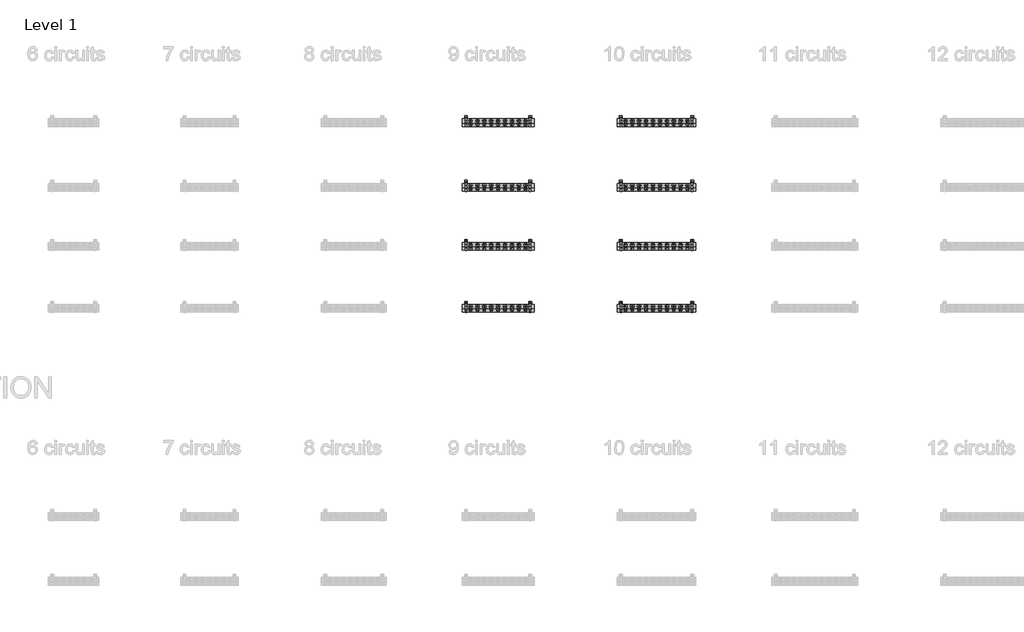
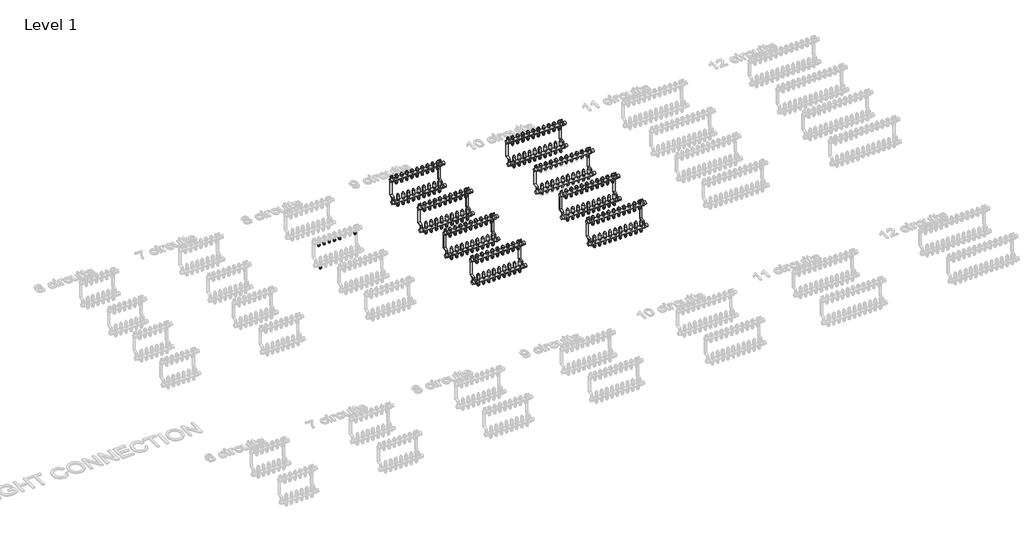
# One storey, part 10 of 23: 139 pipe fittings, 8 valves.
"""IFC4 building model written with IfcOpenShell, lengths in millimetres."""

from ifc_helpers import new_model, si_unit, origin, place, context, project, spatial, transform, mapped, element, save
from components import pipe_fitting_03c6499f, valve_f094e97b, valve_0359cbb0, valve_3285f891, valve_bdae45cc, valve_7e3f3941, valve_882e19a6

model = new_model("IFC4")

# Units and contexts
model_context = context("Model", 3, world=origin())
ifc_project = project(units=[si_unit("LENGTHUNIT", "METRE", prefix="MILLI")], contexts=[model_context])

# Site, building, storey
site = spatial("IfcSite", under=ifc_project)
building = spatial("IfcBuilding", under=site)
storey = spatial("IfcBuildingStorey", under=building, Name="Level 1", Elevation=0.0)

# Pipe fittings
placement = place(None, origin())
pipe_fitting_shape = pipe_fitting_03c6499f(model_context)
element("IfcPipeFitting", 1, ObjectType="Euroconus screwing for multilayer pipes - Manifold FT : Euroconus screwing for multilayer pipes - Manifold FT", at=placement, inside=storey, context=model_context, shape_type="MappedRepresentation", body=[
    mapped(pipe_fitting_shape, transform((7428.4082576, 1200.3040686, 272.88733), x_axis=(0.0, 0.0, -1.0), y_axis=(0.0, 1.0000000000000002, 0.0), z_axis=(1.0000000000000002, 0.0, 0.0))),
])
element("IfcPipeFitting", 2, ObjectType="Euroconus screwing for multilayer pipes - Manifold FT : Euroconus screwing for multilayer pipes - Manifold FT", at=placement, inside=storey, context=model_context, shape_type="MappedRepresentation", body=[
    mapped(pipe_fitting_shape, transform((7379.5511147, 1200.3040686, 272.88733), x_axis=(0.0, 0.0, -1.0), y_axis=(0.0, 1.0000000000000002, 0.0), z_axis=(1.0000000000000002, 0.0, 0.0))),
])
element("IfcPipeFitting", 3, ObjectType="Euroconus screwing for multilayer pipes - Manifold FT : Euroconus screwing for multilayer pipes - Manifold FT", at=placement, inside=storey, context=model_context, shape_type="MappedRepresentation", body=[
    mapped(pipe_fitting_shape, transform((7330.6939719, 1200.3040686, 272.88733), x_axis=(0.0, 0.0, -1.0), y_axis=(0.0, 1.0000000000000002, 0.0), z_axis=(1.0000000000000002, 0.0, 0.0))),
])
element("IfcPipeFitting", 4, ObjectType="Euroconus screwing for multilayer pipes - Manifold FT : Euroconus screwing for multilayer pipes - Manifold FT", at=placement, inside=storey, context=model_context, shape_type="MappedRepresentation", body=[
    mapped(pipe_fitting_shape, transform((7281.836829, 1200.3040686, 272.88733), x_axis=(0.0, 0.0, -1.0), y_axis=(0.0, 1.0000000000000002, 0.0), z_axis=(1.0000000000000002, 0.0, 0.0))),
])
element("IfcPipeFitting", 5, ObjectType="Euroconus screwing for multilayer pipes - Manifold FT : Euroconus screwing for multilayer pipes - Manifold FT", at=placement, inside=storey, context=model_context, shape_type="MappedRepresentation", body=[
    mapped(pipe_fitting_shape, transform((7574.9796862, 1200.3040686, 272.88733), x_axis=(0.0, 0.0, -1.0), y_axis=(0.0, 1.0000000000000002, 0.0), z_axis=(1.0000000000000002, 0.0, 0.0))),
])
element("IfcPipeFitting", 6, ObjectType="Euroconus screwing for multilayer pipes - Manifold FT : Euroconus screwing for multilayer pipes - Manifold FT", at=placement, inside=storey, context=model_context, shape_type="MappedRepresentation", body=[
    mapped(pipe_fitting_shape, transform((7232.9796862, 1175.3040686, 62.88733), x_axis=(0.0, 0.0, -1.0), y_axis=(0.0, 1.0000000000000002, 0.0), z_axis=(1.0000000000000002, 0.0, 0.0))),
])
element("IfcPipeFitting", 7, ObjectType="Euroconus screwing for multilayer pipes - Manifold FT : Euroconus screwing for multilayer pipes - Manifold FT", at=placement, inside=storey, context=model_context, shape_type="MappedRepresentation", body=[
    mapped(pipe_fitting_shape, transform((7232.9796862, 1200.3040686, 272.88733), x_axis=(0.0, 0.0, -1.0), y_axis=(0.0, 1.0000000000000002, 0.0), z_axis=(1.0000000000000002, 0.0, 0.0))),
])
element("IfcPipeFitting", 8, ObjectType="Euroconus screwing for multilayer pipes - Manifold FT : Euroconus screwing for multilayer pipes - Manifold FT", at=placement, inside=storey, context=model_context, shape_type="MappedRepresentation", body=[
    mapped(pipe_fitting_shape, transform((8575.9796862, 1635.3040686, 62.88733), x_axis=(0.0, 0.0, -1.0), y_axis=(0.0, 1.0000000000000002, 0.0), z_axis=(1.0000000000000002, 0.0, 0.0))),
])
element("IfcPipeFitting", 9, ObjectType="Euroconus screwing for multilayer pipes - Manifold FT : Euroconus screwing for multilayer pipes - Manifold FT", at=placement, inside=storey, context=model_context, shape_type="MappedRepresentation", body=[
    mapped(pipe_fitting_shape, transform((8526.9796862, 1635.3040686, 62.88733), x_axis=(0.0, 0.0, -1.0), y_axis=(0.0, 1.0000000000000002, 0.0), z_axis=(1.0000000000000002, 0.0, 0.0))),
])
element("IfcPipeFitting", 10, ObjectType="Euroconus screwing for multilayer pipes - Manifold FT : Euroconus screwing for multilayer pipes - Manifold FT", at=placement, inside=storey, context=model_context, shape_type="MappedRepresentation", body=[
    mapped(pipe_fitting_shape, transform((8477.9796862, 1635.3040686, 62.88733), x_axis=(0.0, 0.0, -1.0), y_axis=(0.0, 1.0000000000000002, 0.0), z_axis=(1.0000000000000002, 0.0, 0.0))),
])
element("IfcPipeFitting", 11, ObjectType="Euroconus screwing for multilayer pipes - Manifold FT : Euroconus screwing for multilayer pipes - Manifold FT", at=placement, inside=storey, context=model_context, shape_type="MappedRepresentation", body=[
    mapped(pipe_fitting_shape, transform((8428.9796862, 1635.3040686, 62.88733), x_axis=(0.0, 0.0, -1.0), y_axis=(0.0, 1.0000000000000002, 0.0), z_axis=(1.0000000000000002, 0.0, 0.0))),
])
element("IfcPipeFitting", 12, ObjectType="Euroconus screwing for multilayer pipes - Manifold FT : Euroconus screwing for multilayer pipes - Manifold FT", at=placement, inside=storey, context=model_context, shape_type="MappedRepresentation", body=[
    mapped(pipe_fitting_shape, transform((8379.9796862, 1635.3040686, 62.88733), x_axis=(0.0, 0.0, -1.0), y_axis=(0.0, 1.0000000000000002, 0.0), z_axis=(1.0000000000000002, 0.0, 0.0))),
])
element("IfcPipeFitting", 13, ObjectType="Euroconus screwing for multilayer pipes - Manifold FT : Euroconus screwing for multilayer pipes - Manifold FT", at=placement, inside=storey, context=model_context, shape_type="MappedRepresentation", body=[
    mapped(pipe_fitting_shape, transform((8330.9796862, 1635.3040686, 62.88733), x_axis=(0.0, 0.0, -1.0), y_axis=(0.0, 1.0000000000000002, 0.0), z_axis=(1.0000000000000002, 0.0, 0.0))),
])
element("IfcPipeFitting", 14, ObjectType="Euroconus screwing for multilayer pipes - Manifold FT : Euroconus screwing for multilayer pipes - Manifold FT", at=placement, inside=storey, context=model_context, shape_type="MappedRepresentation", body=[
    mapped(pipe_fitting_shape, transform((8281.9796862, 1635.3040686, 62.88733), x_axis=(0.0, 0.0, -1.0), y_axis=(0.0, 1.0000000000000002, 0.0), z_axis=(1.0000000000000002, 0.0, 0.0))),
])
element("IfcPipeFitting", 15, ObjectType="Euroconus screwing for multilayer pipes - Manifold FT : Euroconus screwing for multilayer pipes - Manifold FT", at=placement, inside=storey, context=model_context, shape_type="MappedRepresentation", body=[
    mapped(pipe_fitting_shape, transform((8624.9796862, 1635.3040686, 62.88733), x_axis=(0.0, 0.0, -1.0), y_axis=(0.0, 1.0000000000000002, 0.0), z_axis=(1.0000000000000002, 0.0, 0.0))),
])
element("IfcPipeFitting", 16, ObjectType="Euroconus screwing for multilayer pipes - Manifold FT : Euroconus screwing for multilayer pipes - Manifold FT", at=placement, inside=storey, context=model_context, shape_type="MappedRepresentation", body=[
    mapped(pipe_fitting_shape, transform((8575.9796862, 1660.3040686, 272.88733), x_axis=(0.0, 0.0, -1.0), y_axis=(0.0, 1.0000000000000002, 0.0), z_axis=(1.0000000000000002, 0.0, 0.0))),
])
element("IfcPipeFitting", 17, ObjectType="Euroconus screwing for multilayer pipes - Manifold FT : Euroconus screwing for multilayer pipes - Manifold FT", at=placement, inside=storey, context=model_context, shape_type="MappedRepresentation", body=[
    mapped(pipe_fitting_shape, transform((8526.9796862, 1660.3040686, 272.88733), x_axis=(0.0, 0.0, -1.0), y_axis=(0.0, 1.0000000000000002, 0.0), z_axis=(1.0000000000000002, 0.0, 0.0))),
])
element("IfcPipeFitting", 18, ObjectType="Euroconus screwing for multilayer pipes - Manifold FT : Euroconus screwing for multilayer pipes - Manifold FT", at=placement, inside=storey, context=model_context, shape_type="MappedRepresentation", body=[
    mapped(pipe_fitting_shape, transform((8477.9796862, 1660.3040686, 272.88733), x_axis=(0.0, 0.0, -1.0), y_axis=(0.0, 1.0000000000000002, 0.0), z_axis=(1.0000000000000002, 0.0, 0.0))),
])
element("IfcPipeFitting", 19, ObjectType="Euroconus screwing for multilayer pipes - Manifold FT : Euroconus screwing for multilayer pipes - Manifold FT", at=placement, inside=storey, context=model_context, shape_type="MappedRepresentation", body=[
    mapped(pipe_fitting_shape, transform((8428.9796862, 1660.3040686, 272.88733), x_axis=(0.0, 0.0, -1.0), y_axis=(0.0, 1.0000000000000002, 0.0), z_axis=(1.0000000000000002, 0.0, 0.0))),
])
element("IfcPipeFitting", 20, ObjectType="Euroconus screwing for multilayer pipes - Manifold FT : Euroconus screwing for multilayer pipes - Manifold FT", at=placement, inside=storey, context=model_context, shape_type="MappedRepresentation", body=[
    mapped(pipe_fitting_shape, transform((8379.9796862, 1660.3040686, 272.88733), x_axis=(0.0, 0.0, -1.0), y_axis=(0.0, 1.0000000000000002, 0.0), z_axis=(1.0000000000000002, 0.0, 0.0))),
])
element("IfcPipeFitting", 21, ObjectType="Euroconus screwing for multilayer pipes - Manifold FT : Euroconus screwing for multilayer pipes - Manifold FT", at=placement, inside=storey, context=model_context, shape_type="MappedRepresentation", body=[
    mapped(pipe_fitting_shape, transform((8330.9796862, 1660.3040686, 272.88733), x_axis=(0.0, 0.0, -1.0), y_axis=(0.0, 1.0000000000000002, 0.0), z_axis=(1.0000000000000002, 0.0, 0.0))),
])
element("IfcPipeFitting", 22, ObjectType="Euroconus screwing for multilayer pipes - Manifold FT : Euroconus screwing for multilayer pipes - Manifold FT", at=placement, inside=storey, context=model_context, shape_type="MappedRepresentation", body=[
    mapped(pipe_fitting_shape, transform((8281.9796862, 1660.3040686, 272.88733), x_axis=(0.0, 0.0, -1.0), y_axis=(0.0, 1.0000000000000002, 0.0), z_axis=(1.0000000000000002, 0.0, 0.0))),
])
element("IfcPipeFitting", 23, ObjectType="Euroconus screwing for multilayer pipes - Manifold FT : Euroconus screwing for multilayer pipes - Manifold FT", at=placement, inside=storey, context=model_context, shape_type="MappedRepresentation", body=[
    mapped(pipe_fitting_shape, transform((8624.9796862, 1660.3040686, 272.88733), x_axis=(0.0, 0.0, -1.0), y_axis=(0.0, 1.0000000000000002, 0.0), z_axis=(1.0000000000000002, 0.0, 0.0))),
])
element("IfcPipeFitting", 24, ObjectType="Euroconus screwing for multilayer pipes - Manifold FT : Euroconus screwing for multilayer pipes - Manifold FT", at=placement, inside=storey, context=model_context, shape_type="MappedRepresentation", body=[
    mapped(pipe_fitting_shape, transform((8232.9796862, 1635.3040686, 62.88733), x_axis=(0.0, 0.0, -1.0), y_axis=(0.0, 1.0000000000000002, 0.0), z_axis=(1.0000000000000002, 0.0, 0.0))),
])
element("IfcPipeFitting", 25, ObjectType="Euroconus screwing for multilayer pipes - Manifold FT : Euroconus screwing for multilayer pipes - Manifold FT", at=placement, inside=storey, context=model_context, shape_type="MappedRepresentation", body=[
    mapped(pipe_fitting_shape, transform((8232.9796862, 1660.3040686, 272.88733), x_axis=(0.0, 0.0, -1.0), y_axis=(0.0, 1.0000000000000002, 0.0), z_axis=(1.0000000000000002, 0.0, 0.0))),
])
element("IfcPipeFitting", 26, ObjectType="Euroconus screwing for multilayer pipes - Manifold FT : Euroconus screwing for multilayer pipes - Manifold FT", at=placement, inside=storey, context=model_context, shape_type="MappedRepresentation", body=[
    mapped(pipe_fitting_shape, transform((8575.9796862, 1175.3040686, 62.88733), x_axis=(0.0, 0.0, -1.0), y_axis=(0.0, 1.0000000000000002, 0.0), z_axis=(1.0000000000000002, 0.0, 0.0))),
])
element("IfcPipeFitting", 27, ObjectType="Euroconus screwing for multilayer pipes - Manifold FT : Euroconus screwing for multilayer pipes - Manifold FT", at=placement, inside=storey, context=model_context, shape_type="MappedRepresentation", body=[
    mapped(pipe_fitting_shape, transform((8526.9796862, 1175.3040686, 62.88733), x_axis=(0.0, 0.0, -1.0), y_axis=(0.0, 1.0000000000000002, 0.0), z_axis=(1.0000000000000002, 0.0, 0.0))),
])
element("IfcPipeFitting", 28, ObjectType="Euroconus screwing for multilayer pipes - Manifold FT : Euroconus screwing for multilayer pipes - Manifold FT", at=placement, inside=storey, context=model_context, shape_type="MappedRepresentation", body=[
    mapped(pipe_fitting_shape, transform((8477.9796862, 1175.3040686, 62.88733), x_axis=(0.0, 0.0, -1.0), y_axis=(0.0, 1.0000000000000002, 0.0), z_axis=(1.0000000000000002, 0.0, 0.0))),
])
element("IfcPipeFitting", 29, ObjectType="Euroconus screwing for multilayer pipes - Manifold FT : Euroconus screwing for multilayer pipes - Manifold FT", at=placement, inside=storey, context=model_context, shape_type="MappedRepresentation", body=[
    mapped(pipe_fitting_shape, transform((8428.9796862, 1175.3040686, 62.88733), x_axis=(0.0, 0.0, -1.0), y_axis=(0.0, 1.0000000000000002, 0.0), z_axis=(1.0000000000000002, 0.0, 0.0))),
])
element("IfcPipeFitting", 30, ObjectType="Euroconus screwing for multilayer pipes - Manifold FT : Euroconus screwing for multilayer pipes - Manifold FT", at=placement, inside=storey, context=model_context, shape_type="MappedRepresentation", body=[
    mapped(pipe_fitting_shape, transform((8379.9796862, 1175.3040686, 62.88733), x_axis=(0.0, 0.0, -1.0), y_axis=(0.0, 1.0000000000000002, 0.0), z_axis=(1.0000000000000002, 0.0, 0.0))),
])
element("IfcPipeFitting", 31, ObjectType="Euroconus screwing for multilayer pipes - Manifold FT : Euroconus screwing for multilayer pipes - Manifold FT", at=placement, inside=storey, context=model_context, shape_type="MappedRepresentation", body=[
    mapped(pipe_fitting_shape, transform((8330.9796862, 1175.3040686, 62.88733), x_axis=(0.0, 0.0, -1.0), y_axis=(0.0, 1.0000000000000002, 0.0), z_axis=(1.0000000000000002, 0.0, 0.0))),
])
element("IfcPipeFitting", 32, ObjectType="Euroconus screwing for multilayer pipes - Manifold FT : Euroconus screwing for multilayer pipes - Manifold FT", at=placement, inside=storey, context=model_context, shape_type="MappedRepresentation", body=[
    mapped(pipe_fitting_shape, transform((8281.9796862, 1175.3040686, 62.88733), x_axis=(0.0, 0.0, -1.0), y_axis=(0.0, 1.0000000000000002, 0.0), z_axis=(1.0000000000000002, 0.0, 0.0))),
])
element("IfcPipeFitting", 33, ObjectType="Euroconus screwing for multilayer pipes - Manifold FT : Euroconus screwing for multilayer pipes - Manifold FT", at=placement, inside=storey, context=model_context, shape_type="MappedRepresentation", body=[
    mapped(pipe_fitting_shape, transform((8624.9796862, 1175.3040686, 62.88733), x_axis=(0.0, 0.0, -1.0), y_axis=(0.0, 1.0000000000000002, 0.0), z_axis=(1.0000000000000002, 0.0, 0.0))),
])
element("IfcPipeFitting", 34, ObjectType="Euroconus screwing for multilayer pipes - Manifold FT : Euroconus screwing for multilayer pipes - Manifold FT", at=placement, inside=storey, context=model_context, shape_type="MappedRepresentation", body=[
    mapped(pipe_fitting_shape, transform((8575.9796862, 1200.3040686, 272.88733), x_axis=(0.0, 0.0, -1.0), y_axis=(0.0, 1.0000000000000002, 0.0), z_axis=(1.0000000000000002, 0.0, 0.0))),
])
element("IfcPipeFitting", 35, ObjectType="Euroconus screwing for multilayer pipes - Manifold FT : Euroconus screwing for multilayer pipes - Manifold FT", at=placement, inside=storey, context=model_context, shape_type="MappedRepresentation", body=[
    mapped(pipe_fitting_shape, transform((8526.9796862, 1200.3040686, 272.88733), x_axis=(0.0, 0.0, -1.0), y_axis=(0.0, 1.0000000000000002, 0.0), z_axis=(1.0000000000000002, 0.0, 0.0))),
])
element("IfcPipeFitting", 36, ObjectType="Euroconus screwing for multilayer pipes - Manifold FT : Euroconus screwing for multilayer pipes - Manifold FT", at=placement, inside=storey, context=model_context, shape_type="MappedRepresentation", body=[
    mapped(pipe_fitting_shape, transform((8477.9796862, 1200.3040686, 272.88733), x_axis=(0.0, 0.0, -1.0), y_axis=(0.0, 1.0000000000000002, 0.0), z_axis=(1.0000000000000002, 0.0, 0.0))),
])
element("IfcPipeFitting", 37, ObjectType="Euroconus screwing for multilayer pipes - Manifold FT : Euroconus screwing for multilayer pipes - Manifold FT", at=placement, inside=storey, context=model_context, shape_type="MappedRepresentation", body=[
    mapped(pipe_fitting_shape, transform((8428.9796862, 1200.3040686, 272.88733), x_axis=(0.0, 0.0, -1.0), y_axis=(0.0, 1.0000000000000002, 0.0), z_axis=(1.0000000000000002, 0.0, 0.0))),
])
element("IfcPipeFitting", 38, ObjectType="Euroconus screwing for multilayer pipes - Manifold FT : Euroconus screwing for multilayer pipes - Manifold FT", at=placement, inside=storey, context=model_context, shape_type="MappedRepresentation", body=[
    mapped(pipe_fitting_shape, transform((8379.9796862, 1200.3040686, 272.88733), x_axis=(0.0, 0.0, -1.0), y_axis=(0.0, 1.0000000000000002, 0.0), z_axis=(1.0000000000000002, 0.0, 0.0))),
])
element("IfcPipeFitting", 39, ObjectType="Euroconus screwing for multilayer pipes - Manifold FT : Euroconus screwing for multilayer pipes - Manifold FT", at=placement, inside=storey, context=model_context, shape_type="MappedRepresentation", body=[
    mapped(pipe_fitting_shape, transform((8330.9796862, 1200.3040686, 272.88733), x_axis=(0.0, 0.0, -1.0), y_axis=(0.0, 1.0000000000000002, 0.0), z_axis=(1.0000000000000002, 0.0, 0.0))),
])
element("IfcPipeFitting", 40, ObjectType="Euroconus screwing for multilayer pipes - Manifold FT : Euroconus screwing for multilayer pipes - Manifold FT", at=placement, inside=storey, context=model_context, shape_type="MappedRepresentation", body=[
    mapped(pipe_fitting_shape, transform((8281.9796862, 1200.3040686, 272.88733), x_axis=(0.0, 0.0, -1.0), y_axis=(0.0, 1.0000000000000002, 0.0), z_axis=(1.0000000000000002, 0.0, 0.0))),
])
element("IfcPipeFitting", 41, ObjectType="Euroconus screwing for multilayer pipes - Manifold FT : Euroconus screwing for multilayer pipes - Manifold FT", at=placement, inside=storey, context=model_context, shape_type="MappedRepresentation", body=[
    mapped(pipe_fitting_shape, transform((8624.9796862, 1200.3040686, 272.88733), x_axis=(0.0, 0.0, -1.0), y_axis=(0.0, 1.0000000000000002, 0.0), z_axis=(1.0000000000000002, 0.0, 0.0))),
])
element("IfcPipeFitting", 42, ObjectType="Euroconus screwing for multilayer pipes - Manifold FT : Euroconus screwing for multilayer pipes - Manifold FT", at=placement, inside=storey, context=model_context, shape_type="MappedRepresentation", body=[
    mapped(pipe_fitting_shape, transform((8232.9796862, 1175.3040686, 62.88733), x_axis=(0.0, 0.0, -1.0), y_axis=(0.0, 1.0000000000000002, 0.0), z_axis=(1.0000000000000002, 0.0, 0.0))),
])
element("IfcPipeFitting", 43, ObjectType="Euroconus screwing for multilayer pipes - Manifold FT : Euroconus screwing for multilayer pipes - Manifold FT", at=placement, inside=storey, context=model_context, shape_type="MappedRepresentation", body=[
    mapped(pipe_fitting_shape, transform((8232.9796862, 1200.3040686, 272.88733), x_axis=(0.0, 0.0, -1.0), y_axis=(0.0, 1.0000000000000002, 0.0), z_axis=(1.0000000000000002, 0.0, 0.0))),
])
element("IfcPipeFitting", 44, ObjectType="Euroconus screwing for multilayer pipes - Manifold FT : Euroconus screwing for multilayer pipes - Manifold FT", at=placement, inside=storey, context=model_context, shape_type="MappedRepresentation", body=[
    mapped(pipe_fitting_shape, transform((8575.9796862, 755.3040686, 62.88733), x_axis=(0.0, 0.0, -1.0), y_axis=(0.0, 1.0000000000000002, 0.0), z_axis=(1.0000000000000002, 0.0, 0.0))),
])
element("IfcPipeFitting", 45, ObjectType="Euroconus screwing for multilayer pipes - Manifold FT : Euroconus screwing for multilayer pipes - Manifold FT", at=placement, inside=storey, context=model_context, shape_type="MappedRepresentation", body=[
    mapped(pipe_fitting_shape, transform((8526.9796862, 755.3040686, 62.88733), x_axis=(0.0, 0.0, -1.0), y_axis=(0.0, 1.0000000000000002, 0.0), z_axis=(1.0000000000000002, 0.0, 0.0))),
])
element("IfcPipeFitting", 46, ObjectType="Euroconus screwing for multilayer pipes - Manifold FT : Euroconus screwing for multilayer pipes - Manifold FT", at=placement, inside=storey, context=model_context, shape_type="MappedRepresentation", body=[
    mapped(pipe_fitting_shape, transform((8477.9796862, 755.3040686, 62.88733), x_axis=(0.0, 0.0, -1.0), y_axis=(0.0, 1.0000000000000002, 0.0), z_axis=(1.0000000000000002, 0.0, 0.0))),
])
element("IfcPipeFitting", 47, ObjectType="Euroconus screwing for multilayer pipes - Manifold FT : Euroconus screwing for multilayer pipes - Manifold FT", at=placement, inside=storey, context=model_context, shape_type="MappedRepresentation", body=[
    mapped(pipe_fitting_shape, transform((8428.9796862, 755.3040686, 62.88733), x_axis=(0.0, 0.0, -1.0), y_axis=(0.0, 1.0000000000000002, 0.0), z_axis=(1.0000000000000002, 0.0, 0.0))),
])
element("IfcPipeFitting", 48, ObjectType="Euroconus screwing for multilayer pipes - Manifold FT : Euroconus screwing for multilayer pipes - Manifold FT", at=placement, inside=storey, context=model_context, shape_type="MappedRepresentation", body=[
    mapped(pipe_fitting_shape, transform((8379.9796862, 755.3040686, 62.88733), x_axis=(0.0, 0.0, -1.0), y_axis=(0.0, 1.0000000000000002, 0.0), z_axis=(1.0000000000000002, 0.0, 0.0))),
])
element("IfcPipeFitting", 49, ObjectType="Euroconus screwing for multilayer pipes - Manifold FT : Euroconus screwing for multilayer pipes - Manifold FT", at=placement, inside=storey, context=model_context, shape_type="MappedRepresentation", body=[
    mapped(pipe_fitting_shape, transform((8330.9796862, 755.3040686, 62.88733), x_axis=(0.0, 0.0, -1.0), y_axis=(0.0, 1.0000000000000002, 0.0), z_axis=(1.0000000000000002, 0.0, 0.0))),
])
element("IfcPipeFitting", 50, ObjectType="Euroconus screwing for multilayer pipes - Manifold FT : Euroconus screwing for multilayer pipes - Manifold FT", at=placement, inside=storey, context=model_context, shape_type="MappedRepresentation", body=[
    mapped(pipe_fitting_shape, transform((8281.9796862, 755.3040686, 62.88733), x_axis=(0.0, 0.0, -1.0), y_axis=(0.0, 1.0000000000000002, 0.0), z_axis=(1.0000000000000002, 0.0, 0.0))),
])
element("IfcPipeFitting", 51, ObjectType="Euroconus screwing for multilayer pipes - Manifold FT : Euroconus screwing for multilayer pipes - Manifold FT", at=placement, inside=storey, context=model_context, shape_type="MappedRepresentation", body=[
    mapped(pipe_fitting_shape, transform((8624.9796862, 755.3040686, 62.88733), x_axis=(0.0, 0.0, -1.0), y_axis=(0.0, 1.0000000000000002, 0.0), z_axis=(1.0000000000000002, 0.0, 0.0))),
])
element("IfcPipeFitting", 52, ObjectType="Euroconus screwing for multilayer pipes - Manifold FT : Euroconus screwing for multilayer pipes - Manifold FT", at=placement, inside=storey, context=model_context, shape_type="MappedRepresentation", body=[
    mapped(pipe_fitting_shape, transform((8575.9796862, 780.3040686, 272.88733), x_axis=(0.0, 0.0, -1.0), y_axis=(0.0, 1.0000000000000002, 0.0), z_axis=(1.0000000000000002, 0.0, 0.0))),
])
element("IfcPipeFitting", 53, ObjectType="Euroconus screwing for multilayer pipes - Manifold FT : Euroconus screwing for multilayer pipes - Manifold FT", at=placement, inside=storey, context=model_context, shape_type="MappedRepresentation", body=[
    mapped(pipe_fitting_shape, transform((8526.9796862, 780.3040686, 272.88733), x_axis=(0.0, 0.0, -1.0), y_axis=(0.0, 1.0000000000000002, 0.0), z_axis=(1.0000000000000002, 0.0, 0.0))),
])
element("IfcPipeFitting", 54, ObjectType="Euroconus screwing for multilayer pipes - Manifold FT : Euroconus screwing for multilayer pipes - Manifold FT", at=placement, inside=storey, context=model_context, shape_type="MappedRepresentation", body=[
    mapped(pipe_fitting_shape, transform((8477.9796862, 780.3040686, 272.88733), x_axis=(0.0, 0.0, -1.0), y_axis=(0.0, 1.0000000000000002, 0.0), z_axis=(1.0000000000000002, 0.0, 0.0))),
])
element("IfcPipeFitting", 55, ObjectType="Euroconus screwing for multilayer pipes - Manifold FT : Euroconus screwing for multilayer pipes - Manifold FT", at=placement, inside=storey, context=model_context, shape_type="MappedRepresentation", body=[
    mapped(pipe_fitting_shape, transform((8428.9796862, 780.3040686, 272.88733), x_axis=(0.0, 0.0, -1.0), y_axis=(0.0, 1.0000000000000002, 0.0), z_axis=(1.0000000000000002, 0.0, 0.0))),
])
element("IfcPipeFitting", 56, ObjectType="Euroconus screwing for multilayer pipes - Manifold FT : Euroconus screwing for multilayer pipes - Manifold FT", at=placement, inside=storey, context=model_context, shape_type="MappedRepresentation", body=[
    mapped(pipe_fitting_shape, transform((8379.9796862, 780.3040686, 272.88733), x_axis=(0.0, 0.0, -1.0), y_axis=(0.0, 1.0000000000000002, 0.0), z_axis=(1.0000000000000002, 0.0, 0.0))),
])
element("IfcPipeFitting", 57, ObjectType="Euroconus screwing for multilayer pipes - Manifold FT : Euroconus screwing for multilayer pipes - Manifold FT", at=placement, inside=storey, context=model_context, shape_type="MappedRepresentation", body=[
    mapped(pipe_fitting_shape, transform((8330.9796862, 780.3040686, 272.88733), x_axis=(0.0, 0.0, -1.0), y_axis=(0.0, 1.0000000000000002, 0.0), z_axis=(1.0000000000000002, 0.0, 0.0))),
])
element("IfcPipeFitting", 58, ObjectType="Euroconus screwing for multilayer pipes - Manifold FT : Euroconus screwing for multilayer pipes - Manifold FT", at=placement, inside=storey, context=model_context, shape_type="MappedRepresentation", body=[
    mapped(pipe_fitting_shape, transform((8281.9796862, 780.3040686, 272.88733), x_axis=(0.0, 0.0, -1.0), y_axis=(0.0, 1.0000000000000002, 0.0), z_axis=(1.0000000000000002, 0.0, 0.0))),
])
element("IfcPipeFitting", 59, ObjectType="Euroconus screwing for multilayer pipes - Manifold FT : Euroconus screwing for multilayer pipes - Manifold FT", at=placement, inside=storey, context=model_context, shape_type="MappedRepresentation", body=[
    mapped(pipe_fitting_shape, transform((8624.9796862, 780.3040686, 272.88733), x_axis=(0.0, 0.0, -1.0), y_axis=(0.0, 1.0000000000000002, 0.0), z_axis=(1.0000000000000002, 0.0, 0.0))),
])
element("IfcPipeFitting", 60, ObjectType="Euroconus screwing for multilayer pipes - Manifold FT : Euroconus screwing for multilayer pipes - Manifold FT", at=placement, inside=storey, context=model_context, shape_type="MappedRepresentation", body=[
    mapped(pipe_fitting_shape, transform((8232.9796862, 755.3040686, 62.88733), x_axis=(0.0, 0.0, -1.0), y_axis=(0.0, 1.0000000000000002, 0.0), z_axis=(1.0000000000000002, 0.0, 0.0))),
])
element("IfcPipeFitting", 61, ObjectType="Euroconus screwing for multilayer pipes - Manifold FT : Euroconus screwing for multilayer pipes - Manifold FT", at=placement, inside=storey, context=model_context, shape_type="MappedRepresentation", body=[
    mapped(pipe_fitting_shape, transform((8232.9796862, 780.3040686, 272.88733), x_axis=(0.0, 0.0, -1.0), y_axis=(0.0, 1.0000000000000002, 0.0), z_axis=(1.0000000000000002, 0.0, 0.0))),
])
element("IfcPipeFitting", 62, ObjectType="Euroconus screwing for multilayer pipes - Manifold FT : Euroconus screwing for multilayer pipes - Manifold FT", at=placement, inside=storey, context=model_context, shape_type="MappedRepresentation", body=[
    mapped(pipe_fitting_shape, transform((8575.9796862, 315.3040686, 62.88733), x_axis=(0.0, 0.0, -1.0), y_axis=(0.0, 1.0000000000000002, 0.0), z_axis=(1.0000000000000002, 0.0, 0.0))),
])
element("IfcPipeFitting", 63, ObjectType="Euroconus screwing for multilayer pipes - Manifold FT : Euroconus screwing for multilayer pipes - Manifold FT", at=placement, inside=storey, context=model_context, shape_type="MappedRepresentation", body=[
    mapped(pipe_fitting_shape, transform((8526.9796862, 315.3040686, 62.88733), x_axis=(0.0, 0.0, -1.0), y_axis=(0.0, 1.0000000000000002, 0.0), z_axis=(1.0000000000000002, 0.0, 0.0))),
])
element("IfcPipeFitting", 64, ObjectType="Euroconus screwing for multilayer pipes - Manifold FT : Euroconus screwing for multilayer pipes - Manifold FT", at=placement, inside=storey, context=model_context, shape_type="MappedRepresentation", body=[
    mapped(pipe_fitting_shape, transform((8477.9796862, 315.3040686, 62.88733), x_axis=(0.0, 0.0, -1.0), y_axis=(0.0, 1.0000000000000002, 0.0), z_axis=(1.0000000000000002, 0.0, 0.0))),
])
element("IfcPipeFitting", 65, ObjectType="Euroconus screwing for multilayer pipes - Manifold FT : Euroconus screwing for multilayer pipes - Manifold FT", at=placement, inside=storey, context=model_context, shape_type="MappedRepresentation", body=[
    mapped(pipe_fitting_shape, transform((8428.9796862, 315.3040686, 62.88733), x_axis=(0.0, 0.0, -1.0), y_axis=(0.0, 1.0000000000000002, 0.0), z_axis=(1.0000000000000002, 0.0, 0.0))),
])
element("IfcPipeFitting", 66, ObjectType="Euroconus screwing for multilayer pipes - Manifold FT : Euroconus screwing for multilayer pipes - Manifold FT", at=placement, inside=storey, context=model_context, shape_type="MappedRepresentation", body=[
    mapped(pipe_fitting_shape, transform((8379.9796862, 315.3040686, 62.88733), x_axis=(0.0, 0.0, -1.0), y_axis=(0.0, 1.0000000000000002, 0.0), z_axis=(1.0000000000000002, 0.0, 0.0))),
])
element("IfcPipeFitting", 67, ObjectType="Euroconus screwing for multilayer pipes - Manifold FT : Euroconus screwing for multilayer pipes - Manifold FT", at=placement, inside=storey, context=model_context, shape_type="MappedRepresentation", body=[
    mapped(pipe_fitting_shape, transform((8330.9796862, 315.3040686, 62.88733), x_axis=(0.0, 0.0, -1.0), y_axis=(0.0, 1.0000000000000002, 0.0), z_axis=(1.0000000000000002, 0.0, 0.0))),
])
element("IfcPipeFitting", 68, ObjectType="Euroconus screwing for multilayer pipes - Manifold FT : Euroconus screwing for multilayer pipes - Manifold FT", at=placement, inside=storey, context=model_context, shape_type="MappedRepresentation", body=[
    mapped(pipe_fitting_shape, transform((8281.9796862, 315.3040686, 62.88733), x_axis=(0.0, 0.0, -1.0), y_axis=(0.0, 1.0000000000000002, 0.0), z_axis=(1.0000000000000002, 0.0, 0.0))),
])
element("IfcPipeFitting", 69, ObjectType="Euroconus screwing for multilayer pipes - Manifold FT : Euroconus screwing for multilayer pipes - Manifold FT", at=placement, inside=storey, context=model_context, shape_type="MappedRepresentation", body=[
    mapped(pipe_fitting_shape, transform((8624.9796862, 315.3040686, 62.88733), x_axis=(0.0, 0.0, -1.0), y_axis=(0.0, 1.0000000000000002, 0.0), z_axis=(1.0000000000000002, 0.0, 0.0))),
])
element("IfcPipeFitting", 70, ObjectType="Euroconus screwing for multilayer pipes - Manifold FT : Euroconus screwing for multilayer pipes - Manifold FT", at=placement, inside=storey, context=model_context, shape_type="MappedRepresentation", body=[
    mapped(pipe_fitting_shape, transform((8575.9796862, 340.3040686, 272.88733), x_axis=(0.0, 0.0, -1.0), y_axis=(0.0, 1.0000000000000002, 0.0), z_axis=(1.0000000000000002, 0.0, 0.0))),
])
element("IfcPipeFitting", 71, ObjectType="Euroconus screwing for multilayer pipes - Manifold FT : Euroconus screwing for multilayer pipes - Manifold FT", at=placement, inside=storey, context=model_context, shape_type="MappedRepresentation", body=[
    mapped(pipe_fitting_shape, transform((8526.9796862, 340.3040686, 272.88733), x_axis=(0.0, 0.0, -1.0), y_axis=(0.0, 1.0000000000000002, 0.0), z_axis=(1.0000000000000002, 0.0, 0.0))),
])
element("IfcPipeFitting", 72, ObjectType="Euroconus screwing for multilayer pipes - Manifold FT : Euroconus screwing for multilayer pipes - Manifold FT", at=placement, inside=storey, context=model_context, shape_type="MappedRepresentation", body=[
    mapped(pipe_fitting_shape, transform((8477.9796862, 340.3040686, 272.88733), x_axis=(0.0, 0.0, -1.0), y_axis=(0.0, 1.0000000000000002, 0.0), z_axis=(1.0000000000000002, 0.0, 0.0))),
])
element("IfcPipeFitting", 73, ObjectType="Euroconus screwing for multilayer pipes - Manifold FT : Euroconus screwing for multilayer pipes - Manifold FT", at=placement, inside=storey, context=model_context, shape_type="MappedRepresentation", body=[
    mapped(pipe_fitting_shape, transform((8428.9796862, 340.3040686, 272.88733), x_axis=(0.0, 0.0, -1.0), y_axis=(0.0, 1.0000000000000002, 0.0), z_axis=(1.0000000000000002, 0.0, 0.0))),
])
element("IfcPipeFitting", 74, ObjectType="Euroconus screwing for multilayer pipes - Manifold FT : Euroconus screwing for multilayer pipes - Manifold FT", at=placement, inside=storey, context=model_context, shape_type="MappedRepresentation", body=[
    mapped(pipe_fitting_shape, transform((8379.9796862, 340.3040686, 272.88733), x_axis=(0.0, 0.0, -1.0), y_axis=(0.0, 1.0000000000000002, 0.0), z_axis=(1.0000000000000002, 0.0, 0.0))),
])
element("IfcPipeFitting", 75, ObjectType="Euroconus screwing for multilayer pipes - Manifold FT : Euroconus screwing for multilayer pipes - Manifold FT", at=placement, inside=storey, context=model_context, shape_type="MappedRepresentation", body=[
    mapped(pipe_fitting_shape, transform((8330.9796862, 340.3040686, 272.88733), x_axis=(0.0, 0.0, -1.0), y_axis=(0.0, 1.0000000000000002, 0.0), z_axis=(1.0000000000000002, 0.0, 0.0))),
])
element("IfcPipeFitting", 76, ObjectType="Euroconus screwing for multilayer pipes - Manifold FT : Euroconus screwing for multilayer pipes - Manifold FT", at=placement, inside=storey, context=model_context, shape_type="MappedRepresentation", body=[
    mapped(pipe_fitting_shape, transform((8281.9796862, 340.3040686, 272.88733), x_axis=(0.0, 0.0, -1.0), y_axis=(0.0, 1.0000000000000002, 0.0), z_axis=(1.0000000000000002, 0.0, 0.0))),
])
element("IfcPipeFitting", 77, ObjectType="Euroconus screwing for multilayer pipes - Manifold FT : Euroconus screwing for multilayer pipes - Manifold FT", at=placement, inside=storey, context=model_context, shape_type="MappedRepresentation", body=[
    mapped(pipe_fitting_shape, transform((8624.9796862, 340.3040686, 272.88733), x_axis=(0.0, 0.0, -1.0), y_axis=(0.0, 1.0000000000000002, 0.0), z_axis=(1.0000000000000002, 0.0, 0.0))),
])
element("IfcPipeFitting", 78, ObjectType="Euroconus screwing for multilayer pipes - Manifold FT : Euroconus screwing for multilayer pipes - Manifold FT", at=placement, inside=storey, context=model_context, shape_type="MappedRepresentation", body=[
    mapped(pipe_fitting_shape, transform((8232.9796862, 315.3040686, 62.88733), x_axis=(0.0, 0.0, -1.0), y_axis=(0.0, 1.0000000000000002, 0.0), z_axis=(1.0000000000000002, 0.0, 0.0))),
])
element("IfcPipeFitting", 79, ObjectType="Euroconus screwing for multilayer pipes - Manifold FT : Euroconus screwing for multilayer pipes - Manifold FT", at=placement, inside=storey, context=model_context, shape_type="MappedRepresentation", body=[
    mapped(pipe_fitting_shape, transform((8232.9796862, 340.3040686, 272.88733), x_axis=(0.0, 0.0, -1.0), y_axis=(0.0, 1.0000000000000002, 0.0), z_axis=(1.0000000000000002, 0.0, 0.0))),
])
element("IfcPipeFitting", 80, ObjectType="Euroconus screwing for multilayer pipes - Manifold FT : Euroconus screwing for multilayer pipes - Manifold FT", at=placement, inside=storey, context=model_context, shape_type="MappedRepresentation", body=[
    mapped(pipe_fitting_shape, transform((9725.8685751, 1635.3040686, 62.88733), x_axis=(0.0, 0.0, -1.0), y_axis=(0.0, 1.0000000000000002, 0.0), z_axis=(1.0000000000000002, 0.0, 0.0))),
])
element("IfcPipeFitting", 81, ObjectType="Euroconus screwing for multilayer pipes - Manifold FT : Euroconus screwing for multilayer pipes - Manifold FT", at=placement, inside=storey, context=model_context, shape_type="MappedRepresentation", body=[
    mapped(pipe_fitting_shape, transform((9676.7574639, 1635.3040686, 62.88733), x_axis=(0.0, 0.0, -1.0), y_axis=(0.0, 1.0000000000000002, 0.0), z_axis=(1.0000000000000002, 0.0, 0.0))),
])
element("IfcPipeFitting", 82, ObjectType="Euroconus screwing for multilayer pipes - Manifold FT : Euroconus screwing for multilayer pipes - Manifold FT", at=placement, inside=storey, context=model_context, shape_type="MappedRepresentation", body=[
    mapped(pipe_fitting_shape, transform((9627.6463528, 1635.3040686, 62.88733), x_axis=(0.0, 0.0, -1.0), y_axis=(0.0, 1.0000000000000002, 0.0), z_axis=(1.0000000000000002, 0.0, 0.0))),
])
element("IfcPipeFitting", 83, ObjectType="Euroconus screwing for multilayer pipes - Manifold FT : Euroconus screwing for multilayer pipes - Manifold FT", at=placement, inside=storey, context=model_context, shape_type="MappedRepresentation", body=[
    mapped(pipe_fitting_shape, transform((9578.5352417, 1635.3040686, 62.88733), x_axis=(0.0, 0.0, -1.0), y_axis=(0.0, 1.0000000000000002, 0.0), z_axis=(1.0000000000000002, 0.0, 0.0))),
])
element("IfcPipeFitting", 84, ObjectType="Euroconus screwing for multilayer pipes - Manifold FT : Euroconus screwing for multilayer pipes - Manifold FT", at=placement, inside=storey, context=model_context, shape_type="MappedRepresentation", body=[
    mapped(pipe_fitting_shape, transform((9529.4241306, 1635.3040686, 62.88733), x_axis=(0.0, 0.0, -1.0), y_axis=(0.0, 1.0000000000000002, 0.0), z_axis=(1.0000000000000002, 0.0, 0.0))),
])
element("IfcPipeFitting", 85, ObjectType="Euroconus screwing for multilayer pipes - Manifold FT : Euroconus screwing for multilayer pipes - Manifold FT", at=placement, inside=storey, context=model_context, shape_type="MappedRepresentation", body=[
    mapped(pipe_fitting_shape, transform((9480.3130195, 1635.3040686, 62.88733), x_axis=(0.0, 0.0, -1.0), y_axis=(0.0, 1.0000000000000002, 0.0), z_axis=(1.0000000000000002, 0.0, 0.0))),
])
element("IfcPipeFitting", 86, ObjectType="Euroconus screwing for multilayer pipes - Manifold FT : Euroconus screwing for multilayer pipes - Manifold FT", at=placement, inside=storey, context=model_context, shape_type="MappedRepresentation", body=[
    mapped(pipe_fitting_shape, transform((9431.2019084, 1635.3040686, 62.88733), x_axis=(0.0, 0.0, -1.0), y_axis=(0.0, 1.0000000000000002, 0.0), z_axis=(1.0000000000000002, 0.0, 0.0))),
])
element("IfcPipeFitting", 87, ObjectType="Euroconus screwing for multilayer pipes - Manifold FT : Euroconus screwing for multilayer pipes - Manifold FT", at=placement, inside=storey, context=model_context, shape_type="MappedRepresentation", body=[
    mapped(pipe_fitting_shape, transform((9382.0907973, 1635.3040686, 62.88733), x_axis=(0.0, 0.0, -1.0), y_axis=(0.0, 1.0000000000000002, 0.0), z_axis=(1.0000000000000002, 0.0, 0.0))),
])
element("IfcPipeFitting", 88, ObjectType="Euroconus screwing for multilayer pipes - Manifold FT : Euroconus screwing for multilayer pipes - Manifold FT", at=placement, inside=storey, context=model_context, shape_type="MappedRepresentation", body=[
    mapped(pipe_fitting_shape, transform((9774.9796862, 1635.3040686, 62.88733), x_axis=(0.0, 0.0, -1.0), y_axis=(0.0, 1.0000000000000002, 0.0), z_axis=(1.0000000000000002, 0.0, 0.0))),
])
element("IfcPipeFitting", 89, ObjectType="Euroconus screwing for multilayer pipes - Manifold FT : Euroconus screwing for multilayer pipes - Manifold FT", at=placement, inside=storey, context=model_context, shape_type="MappedRepresentation", body=[
    mapped(pipe_fitting_shape, transform((9725.8685751, 1660.3040686, 272.88733), x_axis=(0.0, 0.0, -1.0), y_axis=(0.0, 1.0000000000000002, 0.0), z_axis=(1.0000000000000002, 0.0, 0.0))),
])
element("IfcPipeFitting", 90, ObjectType="Euroconus screwing for multilayer pipes - Manifold FT : Euroconus screwing for multilayer pipes - Manifold FT", at=placement, inside=storey, context=model_context, shape_type="MappedRepresentation", body=[
    mapped(pipe_fitting_shape, transform((9676.7574639, 1660.3040686, 272.88733), x_axis=(0.0, 0.0, -1.0), y_axis=(0.0, 1.0000000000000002, 0.0), z_axis=(1.0000000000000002, 0.0, 0.0))),
])
element("IfcPipeFitting", 91, ObjectType="Euroconus screwing for multilayer pipes - Manifold FT : Euroconus screwing for multilayer pipes - Manifold FT", at=placement, inside=storey, context=model_context, shape_type="MappedRepresentation", body=[
    mapped(pipe_fitting_shape, transform((9627.6463528, 1660.3040686, 272.88733), x_axis=(0.0, 0.0, -1.0), y_axis=(0.0, 1.0000000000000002, 0.0), z_axis=(1.0000000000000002, 0.0, 0.0))),
])
element("IfcPipeFitting", 92, ObjectType="Euroconus screwing for multilayer pipes - Manifold FT : Euroconus screwing for multilayer pipes - Manifold FT", at=placement, inside=storey, context=model_context, shape_type="MappedRepresentation", body=[
    mapped(pipe_fitting_shape, transform((9578.5352417, 1660.3040686, 272.88733), x_axis=(0.0, 0.0, -1.0), y_axis=(0.0, 1.0000000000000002, 0.0), z_axis=(1.0000000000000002, 0.0, 0.0))),
])
element("IfcPipeFitting", 93, ObjectType="Euroconus screwing for multilayer pipes - Manifold FT : Euroconus screwing for multilayer pipes - Manifold FT", at=placement, inside=storey, context=model_context, shape_type="MappedRepresentation", body=[
    mapped(pipe_fitting_shape, transform((9529.4241306, 1660.3040686, 272.88733), x_axis=(0.0, 0.0, -1.0), y_axis=(0.0, 1.0000000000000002, 0.0), z_axis=(1.0000000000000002, 0.0, 0.0))),
])
element("IfcPipeFitting", 94, ObjectType="Euroconus screwing for multilayer pipes - Manifold FT : Euroconus screwing for multilayer pipes - Manifold FT", at=placement, inside=storey, context=model_context, shape_type="MappedRepresentation", body=[
    mapped(pipe_fitting_shape, transform((9480.3130195, 1660.3040686, 272.88733), x_axis=(0.0, 0.0, -1.0), y_axis=(0.0, 1.0000000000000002, 0.0), z_axis=(1.0000000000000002, 0.0, 0.0))),
])
element("IfcPipeFitting", 95, ObjectType="Euroconus screwing for multilayer pipes - Manifold FT : Euroconus screwing for multilayer pipes - Manifold FT", at=placement, inside=storey, context=model_context, shape_type="MappedRepresentation", body=[
    mapped(pipe_fitting_shape, transform((9431.2019084, 1660.3040686, 272.88733), x_axis=(0.0, 0.0, -1.0), y_axis=(0.0, 1.0000000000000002, 0.0), z_axis=(1.0000000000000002, 0.0, 0.0))),
])
element("IfcPipeFitting", 96, ObjectType="Euroconus screwing for multilayer pipes - Manifold FT : Euroconus screwing for multilayer pipes - Manifold FT", at=placement, inside=storey, context=model_context, shape_type="MappedRepresentation", body=[
    mapped(pipe_fitting_shape, transform((9382.0907973, 1660.3040686, 272.88733), x_axis=(0.0, 0.0, -1.0), y_axis=(0.0, 1.0000000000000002, 0.0), z_axis=(1.0000000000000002, 0.0, 0.0))),
])
element("IfcPipeFitting", 97, ObjectType="Euroconus screwing for multilayer pipes - Manifold FT : Euroconus screwing for multilayer pipes - Manifold FT", at=placement, inside=storey, context=model_context, shape_type="MappedRepresentation", body=[
    mapped(pipe_fitting_shape, transform((9774.9796862, 1660.3040686, 272.88733), x_axis=(0.0, 0.0, -1.0), y_axis=(0.0, 1.0000000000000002, 0.0), z_axis=(1.0000000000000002, 0.0, 0.0))),
])
element("IfcPipeFitting", 98, ObjectType="Euroconus screwing for multilayer pipes - Manifold FT : Euroconus screwing for multilayer pipes - Manifold FT", at=placement, inside=storey, context=model_context, shape_type="MappedRepresentation", body=[
    mapped(pipe_fitting_shape, transform((9332.9796862, 1635.3040686, 62.88733), x_axis=(0.0, 0.0, -1.0), y_axis=(0.0, 1.0000000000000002, 0.0), z_axis=(1.0000000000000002, 0.0, 0.0))),
])
element("IfcPipeFitting", 99, ObjectType="Euroconus screwing for multilayer pipes - Manifold FT : Euroconus screwing for multilayer pipes - Manifold FT", at=placement, inside=storey, context=model_context, shape_type="MappedRepresentation", body=[
    mapped(pipe_fitting_shape, transform((9332.9796862, 1660.3040686, 272.88733), x_axis=(0.0, 0.0, -1.0), y_axis=(0.0, 1.0000000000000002, 0.0), z_axis=(1.0000000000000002, 0.0, 0.0))),
])
element("IfcPipeFitting", 100, ObjectType="Euroconus screwing for multilayer pipes - Manifold FT : Euroconus screwing for multilayer pipes - Manifold FT", at=placement, inside=storey, context=model_context, shape_type="MappedRepresentation", body=[
    mapped(pipe_fitting_shape, transform((9725.8685751, 755.3040686, 62.88733), x_axis=(0.0, 0.0, -1.0), y_axis=(0.0, 1.0000000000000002, 0.0), z_axis=(1.0000000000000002, 0.0, 0.0))),
])
element("IfcPipeFitting", 101, ObjectType="Euroconus screwing for multilayer pipes - Manifold FT : Euroconus screwing for multilayer pipes - Manifold FT", at=placement, inside=storey, context=model_context, shape_type="MappedRepresentation", body=[
    mapped(pipe_fitting_shape, transform((9676.7574639, 755.3040686, 62.88733), x_axis=(0.0, 0.0, -1.0), y_axis=(0.0, 1.0000000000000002, 0.0), z_axis=(1.0000000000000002, 0.0, 0.0))),
])
element("IfcPipeFitting", 102, ObjectType="Euroconus screwing for multilayer pipes - Manifold FT : Euroconus screwing for multilayer pipes - Manifold FT", at=placement, inside=storey, context=model_context, shape_type="MappedRepresentation", body=[
    mapped(pipe_fitting_shape, transform((9627.6463528, 755.3040686, 62.88733), x_axis=(0.0, 0.0, -1.0), y_axis=(0.0, 1.0000000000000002, 0.0), z_axis=(1.0000000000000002, 0.0, 0.0))),
])
element("IfcPipeFitting", 103, ObjectType="Euroconus screwing for multilayer pipes - Manifold FT : Euroconus screwing for multilayer pipes - Manifold FT", at=placement, inside=storey, context=model_context, shape_type="MappedRepresentation", body=[
    mapped(pipe_fitting_shape, transform((9578.5352417, 755.3040686, 62.88733), x_axis=(0.0, 0.0, -1.0), y_axis=(0.0, 1.0000000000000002, 0.0), z_axis=(1.0000000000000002, 0.0, 0.0))),
])
element("IfcPipeFitting", 104, ObjectType="Euroconus screwing for multilayer pipes - Manifold FT : Euroconus screwing for multilayer pipes - Manifold FT", at=placement, inside=storey, context=model_context, shape_type="MappedRepresentation", body=[
    mapped(pipe_fitting_shape, transform((9529.4241306, 755.3040686, 62.88733), x_axis=(0.0, 0.0, -1.0), y_axis=(0.0, 1.0000000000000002, 0.0), z_axis=(1.0000000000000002, 0.0, 0.0))),
])
element("IfcPipeFitting", 105, ObjectType="Euroconus screwing for multilayer pipes - Manifold FT : Euroconus screwing for multilayer pipes - Manifold FT", at=placement, inside=storey, context=model_context, shape_type="MappedRepresentation", body=[
    mapped(pipe_fitting_shape, transform((9480.3130195, 755.3040686, 62.88733), x_axis=(0.0, 0.0, -1.0), y_axis=(0.0, 1.0000000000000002, 0.0), z_axis=(1.0000000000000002, 0.0, 0.0))),
])
element("IfcPipeFitting", 106, ObjectType="Euroconus screwing for multilayer pipes - Manifold FT : Euroconus screwing for multilayer pipes - Manifold FT", at=placement, inside=storey, context=model_context, shape_type="MappedRepresentation", body=[
    mapped(pipe_fitting_shape, transform((9431.2019084, 755.3040686, 62.88733), x_axis=(0.0, 0.0, -1.0), y_axis=(0.0, 1.0000000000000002, 0.0), z_axis=(1.0000000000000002, 0.0, 0.0))),
])
element("IfcPipeFitting", 107, ObjectType="Euroconus screwing for multilayer pipes - Manifold FT : Euroconus screwing for multilayer pipes - Manifold FT", at=placement, inside=storey, context=model_context, shape_type="MappedRepresentation", body=[
    mapped(pipe_fitting_shape, transform((9382.0907973, 755.3040686, 62.88733), x_axis=(0.0, 0.0, -1.0), y_axis=(0.0, 1.0000000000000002, 0.0), z_axis=(1.0000000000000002, 0.0, 0.0))),
])
element("IfcPipeFitting", 108, ObjectType="Euroconus screwing for multilayer pipes - Manifold FT : Euroconus screwing for multilayer pipes - Manifold FT", at=placement, inside=storey, context=model_context, shape_type="MappedRepresentation", body=[
    mapped(pipe_fitting_shape, transform((9774.9796862, 755.3040686, 62.88733), x_axis=(0.0, 0.0, -1.0), y_axis=(0.0, 1.0000000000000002, 0.0), z_axis=(1.0000000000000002, 0.0, 0.0))),
])
element("IfcPipeFitting", 109, ObjectType="Euroconus screwing for multilayer pipes - Manifold FT : Euroconus screwing for multilayer pipes - Manifold FT", at=placement, inside=storey, context=model_context, shape_type="MappedRepresentation", body=[
    mapped(pipe_fitting_shape, transform((9725.8685751, 780.3040686, 272.88733), x_axis=(0.0, 0.0, -1.0), y_axis=(0.0, 1.0000000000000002, 0.0), z_axis=(1.0000000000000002, 0.0, 0.0))),
])
element("IfcPipeFitting", 110, ObjectType="Euroconus screwing for multilayer pipes - Manifold FT : Euroconus screwing for multilayer pipes - Manifold FT", at=placement, inside=storey, context=model_context, shape_type="MappedRepresentation", body=[
    mapped(pipe_fitting_shape, transform((9676.7574639, 780.3040686, 272.88733), x_axis=(0.0, 0.0, -1.0), y_axis=(0.0, 1.0000000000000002, 0.0), z_axis=(1.0000000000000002, 0.0, 0.0))),
])
element("IfcPipeFitting", 111, ObjectType="Euroconus screwing for multilayer pipes - Manifold FT : Euroconus screwing for multilayer pipes - Manifold FT", at=placement, inside=storey, context=model_context, shape_type="MappedRepresentation", body=[
    mapped(pipe_fitting_shape, transform((9627.6463528, 780.3040686, 272.88733), x_axis=(0.0, 0.0, -1.0), y_axis=(0.0, 1.0000000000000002, 0.0), z_axis=(1.0000000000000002, 0.0, 0.0))),
])
element("IfcPipeFitting", 112, ObjectType="Euroconus screwing for multilayer pipes - Manifold FT : Euroconus screwing for multilayer pipes - Manifold FT", at=placement, inside=storey, context=model_context, shape_type="MappedRepresentation", body=[
    mapped(pipe_fitting_shape, transform((9578.5352417, 780.3040686, 272.88733), x_axis=(0.0, 0.0, -1.0), y_axis=(0.0, 1.0000000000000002, 0.0), z_axis=(1.0000000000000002, 0.0, 0.0))),
])
element("IfcPipeFitting", 113, ObjectType="Euroconus screwing for multilayer pipes - Manifold FT : Euroconus screwing for multilayer pipes - Manifold FT", at=placement, inside=storey, context=model_context, shape_type="MappedRepresentation", body=[
    mapped(pipe_fitting_shape, transform((9529.4241306, 780.3040686, 272.88733), x_axis=(0.0, 0.0, -1.0), y_axis=(0.0, 1.0000000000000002, 0.0), z_axis=(1.0000000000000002, 0.0, 0.0))),
])
element("IfcPipeFitting", 114, ObjectType="Euroconus screwing for multilayer pipes - Manifold FT : Euroconus screwing for multilayer pipes - Manifold FT", at=placement, inside=storey, context=model_context, shape_type="MappedRepresentation", body=[
    mapped(pipe_fitting_shape, transform((9480.3130195, 780.3040686, 272.88733), x_axis=(0.0, 0.0, -1.0), y_axis=(0.0, 1.0000000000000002, 0.0), z_axis=(1.0000000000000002, 0.0, 0.0))),
])
element("IfcPipeFitting", 115, ObjectType="Euroconus screwing for multilayer pipes - Manifold FT : Euroconus screwing for multilayer pipes - Manifold FT", at=placement, inside=storey, context=model_context, shape_type="MappedRepresentation", body=[
    mapped(pipe_fitting_shape, transform((9431.2019084, 780.3040686, 272.88733), x_axis=(0.0, 0.0, -1.0), y_axis=(0.0, 1.0000000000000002, 0.0), z_axis=(1.0000000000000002, 0.0, 0.0))),
])
element("IfcPipeFitting", 116, ObjectType="Euroconus screwing for multilayer pipes - Manifold FT : Euroconus screwing for multilayer pipes - Manifold FT", at=placement, inside=storey, context=model_context, shape_type="MappedRepresentation", body=[
    mapped(pipe_fitting_shape, transform((9382.0907973, 780.3040686, 272.88733), x_axis=(0.0, 0.0, -1.0), y_axis=(0.0, 1.0000000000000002, 0.0), z_axis=(1.0000000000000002, 0.0, 0.0))),
])
element("IfcPipeFitting", 117, ObjectType="Euroconus screwing for multilayer pipes - Manifold FT : Euroconus screwing for multilayer pipes - Manifold FT", at=placement, inside=storey, context=model_context, shape_type="MappedRepresentation", body=[
    mapped(pipe_fitting_shape, transform((9774.9796862, 780.3040686, 272.88733), x_axis=(0.0, 0.0, -1.0), y_axis=(0.0, 1.0000000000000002, 0.0), z_axis=(1.0000000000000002, 0.0, 0.0))),
])
element("IfcPipeFitting", 118, ObjectType="Euroconus screwing for multilayer pipes - Manifold FT : Euroconus screwing for multilayer pipes - Manifold FT", at=placement, inside=storey, context=model_context, shape_type="MappedRepresentation", body=[
    mapped(pipe_fitting_shape, transform((9332.9796862, 755.3040686, 62.88733), x_axis=(0.0, 0.0, -1.0), y_axis=(0.0, 1.0000000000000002, 0.0), z_axis=(1.0000000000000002, 0.0, 0.0))),
])
element("IfcPipeFitting", 119, ObjectType="Euroconus screwing for multilayer pipes - Manifold FT : Euroconus screwing for multilayer pipes - Manifold FT", at=placement, inside=storey, context=model_context, shape_type="MappedRepresentation", body=[
    mapped(pipe_fitting_shape, transform((9332.9796862, 780.3040686, 272.88733), x_axis=(0.0, 0.0, -1.0), y_axis=(0.0, 1.0000000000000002, 0.0), z_axis=(1.0000000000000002, 0.0, 0.0))),
])
element("IfcPipeFitting", 120, ObjectType="Euroconus screwing for multilayer pipes - Manifold FT : Euroconus screwing for multilayer pipes - Manifold FT", at=placement, inside=storey, context=model_context, shape_type="MappedRepresentation", body=[
    mapped(pipe_fitting_shape, transform((9725.8685751, 315.3040686, 62.88733), x_axis=(0.0, 0.0, -1.0), y_axis=(0.0, 1.0000000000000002, 0.0), z_axis=(1.0000000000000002, 0.0, 0.0))),
])
element("IfcPipeFitting", 121, ObjectType="Euroconus screwing for multilayer pipes - Manifold FT : Euroconus screwing for multilayer pipes - Manifold FT", at=placement, inside=storey, context=model_context, shape_type="MappedRepresentation", body=[
    mapped(pipe_fitting_shape, transform((9676.7574639, 315.3040686, 62.88733), x_axis=(0.0, 0.0, -1.0), y_axis=(0.0, 1.0000000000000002, 0.0), z_axis=(1.0000000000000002, 0.0, 0.0))),
])
element("IfcPipeFitting", 122, ObjectType="Euroconus screwing for multilayer pipes - Manifold FT : Euroconus screwing for multilayer pipes - Manifold FT", at=placement, inside=storey, context=model_context, shape_type="MappedRepresentation", body=[
    mapped(pipe_fitting_shape, transform((9627.6463528, 315.3040686, 62.88733), x_axis=(0.0, 0.0, -1.0), y_axis=(0.0, 1.0000000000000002, 0.0), z_axis=(1.0000000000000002, 0.0, 0.0))),
])
element("IfcPipeFitting", 123, ObjectType="Euroconus screwing for multilayer pipes - Manifold FT : Euroconus screwing for multilayer pipes - Manifold FT", at=placement, inside=storey, context=model_context, shape_type="MappedRepresentation", body=[
    mapped(pipe_fitting_shape, transform((9578.5352417, 315.3040686, 62.88733), x_axis=(0.0, 0.0, -1.0), y_axis=(0.0, 1.0000000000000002, 0.0), z_axis=(1.0000000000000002, 0.0, 0.0))),
])
element("IfcPipeFitting", 124, ObjectType="Euroconus screwing for multilayer pipes - Manifold FT : Euroconus screwing for multilayer pipes - Manifold FT", at=placement, inside=storey, context=model_context, shape_type="MappedRepresentation", body=[
    mapped(pipe_fitting_shape, transform((9529.4241306, 315.3040686, 62.88733), x_axis=(0.0, 0.0, -1.0), y_axis=(0.0, 1.0000000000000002, 0.0), z_axis=(1.0000000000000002, 0.0, 0.0))),
])
element("IfcPipeFitting", 125, ObjectType="Euroconus screwing for multilayer pipes - Manifold FT : Euroconus screwing for multilayer pipes - Manifold FT", at=placement, inside=storey, context=model_context, shape_type="MappedRepresentation", body=[
    mapped(pipe_fitting_shape, transform((9480.3130195, 315.3040686, 62.88733), x_axis=(0.0, 0.0, -1.0), y_axis=(0.0, 1.0000000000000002, 0.0), z_axis=(1.0000000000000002, 0.0, 0.0))),
])
element("IfcPipeFitting", 126, ObjectType="Euroconus screwing for multilayer pipes - Manifold FT : Euroconus screwing for multilayer pipes - Manifold FT", at=placement, inside=storey, context=model_context, shape_type="MappedRepresentation", body=[
    mapped(pipe_fitting_shape, transform((9431.2019084, 315.3040686, 62.88733), x_axis=(0.0, 0.0, -1.0), y_axis=(0.0, 1.0000000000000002, 0.0), z_axis=(1.0000000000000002, 0.0, 0.0))),
])
element("IfcPipeFitting", 127, ObjectType="Euroconus screwing for multilayer pipes - Manifold FT : Euroconus screwing for multilayer pipes - Manifold FT", at=placement, inside=storey, context=model_context, shape_type="MappedRepresentation", body=[
    mapped(pipe_fitting_shape, transform((9382.0907973, 315.3040686, 62.88733), x_axis=(0.0, 0.0, -1.0), y_axis=(0.0, 1.0000000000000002, 0.0), z_axis=(1.0000000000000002, 0.0, 0.0))),
])
element("IfcPipeFitting", 128, ObjectType="Euroconus screwing for multilayer pipes - Manifold FT : Euroconus screwing for multilayer pipes - Manifold FT", at=placement, inside=storey, context=model_context, shape_type="MappedRepresentation", body=[
    mapped(pipe_fitting_shape, transform((9774.9796862, 315.3040686, 62.88733), x_axis=(0.0, 0.0, -1.0), y_axis=(0.0, 1.0000000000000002, 0.0), z_axis=(1.0000000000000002, 0.0, 0.0))),
])
element("IfcPipeFitting", 129, ObjectType="Euroconus screwing for multilayer pipes - Manifold FT : Euroconus screwing for multilayer pipes - Manifold FT", at=placement, inside=storey, context=model_context, shape_type="MappedRepresentation", body=[
    mapped(pipe_fitting_shape, transform((9725.8685751, 340.3040686, 272.88733), x_axis=(0.0, 0.0, -1.0), y_axis=(0.0, 1.0000000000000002, 0.0), z_axis=(1.0000000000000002, 0.0, 0.0))),
])
element("IfcPipeFitting", 130, ObjectType="Euroconus screwing for multilayer pipes - Manifold FT : Euroconus screwing for multilayer pipes - Manifold FT", at=placement, inside=storey, context=model_context, shape_type="MappedRepresentation", body=[
    mapped(pipe_fitting_shape, transform((9676.7574639, 340.3040686, 272.88733), x_axis=(0.0, 0.0, -1.0), y_axis=(0.0, 1.0000000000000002, 0.0), z_axis=(1.0000000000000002, 0.0, 0.0))),
])
element("IfcPipeFitting", 131, ObjectType="Euroconus screwing for multilayer pipes - Manifold FT : Euroconus screwing for multilayer pipes - Manifold FT", at=placement, inside=storey, context=model_context, shape_type="MappedRepresentation", body=[
    mapped(pipe_fitting_shape, transform((9627.6463528, 340.3040686, 272.88733), x_axis=(0.0, 0.0, -1.0), y_axis=(0.0, 1.0000000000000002, 0.0), z_axis=(1.0000000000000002, 0.0, 0.0))),
])
element("IfcPipeFitting", 132, ObjectType="Euroconus screwing for multilayer pipes - Manifold FT : Euroconus screwing for multilayer pipes - Manifold FT", at=placement, inside=storey, context=model_context, shape_type="MappedRepresentation", body=[
    mapped(pipe_fitting_shape, transform((9578.5352417, 340.3040686, 272.88733), x_axis=(0.0, 0.0, -1.0), y_axis=(0.0, 1.0000000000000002, 0.0), z_axis=(1.0000000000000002, 0.0, 0.0))),
])
element("IfcPipeFitting", 133, ObjectType="Euroconus screwing for multilayer pipes - Manifold FT : Euroconus screwing for multilayer pipes - Manifold FT", at=placement, inside=storey, context=model_context, shape_type="MappedRepresentation", body=[
    mapped(pipe_fitting_shape, transform((9529.4241306, 340.3040686, 272.88733), x_axis=(0.0, 0.0, -1.0), y_axis=(0.0, 1.0000000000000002, 0.0), z_axis=(1.0000000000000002, 0.0, 0.0))),
])
element("IfcPipeFitting", 134, ObjectType="Euroconus screwing for multilayer pipes - Manifold FT : Euroconus screwing for multilayer pipes - Manifold FT", at=placement, inside=storey, context=model_context, shape_type="MappedRepresentation", body=[
    mapped(pipe_fitting_shape, transform((9480.3130195, 340.3040686, 272.88733), x_axis=(0.0, 0.0, -1.0), y_axis=(0.0, 1.0000000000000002, 0.0), z_axis=(1.0000000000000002, 0.0, 0.0))),
])
element("IfcPipeFitting", 135, ObjectType="Euroconus screwing for multilayer pipes - Manifold FT : Euroconus screwing for multilayer pipes - Manifold FT", at=placement, inside=storey, context=model_context, shape_type="MappedRepresentation", body=[
    mapped(pipe_fitting_shape, transform((9431.2019084, 340.3040686, 272.88733), x_axis=(0.0, 0.0, -1.0), y_axis=(0.0, 1.0000000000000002, 0.0), z_axis=(1.0000000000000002, 0.0, 0.0))),
])
element("IfcPipeFitting", 136, ObjectType="Euroconus screwing for multilayer pipes - Manifold FT : Euroconus screwing for multilayer pipes - Manifold FT", at=placement, inside=storey, context=model_context, shape_type="MappedRepresentation", body=[
    mapped(pipe_fitting_shape, transform((9382.0907973, 340.3040686, 272.88733), x_axis=(0.0, 0.0, -1.0), y_axis=(0.0, 1.0000000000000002, 0.0), z_axis=(1.0000000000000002, 0.0, 0.0))),
])
element("IfcPipeFitting", 137, ObjectType="Euroconus screwing for multilayer pipes - Manifold FT : Euroconus screwing for multilayer pipes - Manifold FT", at=placement, inside=storey, context=model_context, shape_type="MappedRepresentation", body=[
    mapped(pipe_fitting_shape, transform((9774.9796862, 340.3040686, 272.88733), x_axis=(0.0, 0.0, -1.0), y_axis=(0.0, 1.0000000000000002, 0.0), z_axis=(1.0000000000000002, 0.0, 0.0))),
])
element("IfcPipeFitting", 138, ObjectType="Euroconus screwing for multilayer pipes - Manifold FT : Euroconus screwing for multilayer pipes - Manifold FT", at=placement, inside=storey, context=model_context, shape_type="MappedRepresentation", body=[
    mapped(pipe_fitting_shape, transform((9332.9796862, 315.3040686, 62.88733), x_axis=(0.0, 0.0, -1.0), y_axis=(0.0, 1.0000000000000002, 0.0), z_axis=(1.0000000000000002, 0.0, 0.0))),
])
element("IfcPipeFitting", 139, ObjectType="Euroconus screwing for multilayer pipes - Manifold FT : Euroconus screwing for multilayer pipes - Manifold FT", at=placement, inside=storey, context=model_context, shape_type="MappedRepresentation", body=[
    mapped(pipe_fitting_shape, transform((9332.9796862, 340.3040686, 272.88733), x_axis=(0.0, 0.0, -1.0), y_axis=(0.0, 1.0000000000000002, 0.0), z_axis=(1.0000000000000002, 0.0, 0.0))),
])

# Valves
valve_shape = valve_f094e97b(model_context)
valve_2_shape = valve_0359cbb0(model_context)
valve_3_shape = valve_3285f891(model_context)
element("IfcValve", 140, ObjectType="PL AT_Manifold_FT-EV : 09 circuits", at=placement, inside=storey, context=model_context, shape_type="MappedRepresentation", body=[
    mapped(valve_shape, transform((8190.9796862, 1635.3040686, 100.0), x_axis=(1.0, 0.0, 0.0), y_axis=(0.0, 1.0, 0.0), z_axis=(0.0, 0.0, 1.0))),
    mapped(valve_2_shape, transform((8190.9796862, 1635.3040686, 100.0), x_axis=(1.0, 0.0, 0.0), y_axis=(0.0, 1.0, 0.0), z_axis=(0.0, 0.0, 1.0))),
    mapped(valve_3_shape, transform((8190.9796862, 1635.3040686, 100.0), x_axis=(1.0, 0.0, 0.0), y_axis=(0.0, 1.0, 0.0), z_axis=(0.0, 0.0, 1.0))),
])
element("IfcValve", 141, ObjectType="PL AT_Manifold_FT-EV : 09 circuits", at=placement, inside=storey, context=model_context, shape_type="MappedRepresentation", body=[
    mapped(valve_shape, transform((8190.9796862, 1175.3040686, 100.0), x_axis=(1.0, 0.0, 0.0), y_axis=(0.0, 1.0, 0.0), z_axis=(0.0, 0.0, 1.0))),
    mapped(valve_2_shape, transform((8190.9796862, 1175.3040686, 100.0), x_axis=(1.0, 0.0, 0.0), y_axis=(0.0, 1.0, 0.0), z_axis=(0.0, 0.0, 1.0))),
    mapped(valve_3_shape, transform((8190.9796862, 1175.3040686, 100.0), x_axis=(1.0, 0.0, 0.0), y_axis=(0.0, 1.0, 0.0), z_axis=(0.0, 0.0, 1.0))),
])
element("IfcValve", 142, ObjectType="PL AT_Manifold_FT-EV : 09 circuits", at=placement, inside=storey, context=model_context, shape_type="MappedRepresentation", body=[
    mapped(valve_shape, transform((8190.9796862, 755.3040686, 100.0), x_axis=(1.0, 0.0, 0.0), y_axis=(0.0, 1.0, 0.0), z_axis=(0.0, 0.0, 1.0))),
    mapped(valve_2_shape, transform((8190.9796862, 755.3040686, 100.0), x_axis=(1.0, 0.0, 0.0), y_axis=(0.0, 1.0, 0.0), z_axis=(0.0, 0.0, 1.0))),
    mapped(valve_3_shape, transform((8190.9796862, 755.3040686, 100.0), x_axis=(1.0, 0.0, 0.0), y_axis=(0.0, 1.0, 0.0), z_axis=(0.0, 0.0, 1.0))),
])
element("IfcValve", 143, ObjectType="PL AT_Manifold_FT-EV : 09 circuits", at=placement, inside=storey, context=model_context, shape_type="MappedRepresentation", body=[
    mapped(valve_shape, transform((8190.9796862, 315.3040686, 100.0), x_axis=(1.0, 0.0, 0.0), y_axis=(0.0, 1.0, 0.0), z_axis=(0.0, 0.0, 1.0))),
    mapped(valve_2_shape, transform((8190.9796862, 315.3040686, 100.0), x_axis=(1.0, 0.0, 0.0), y_axis=(0.0, 1.0, 0.0), z_axis=(0.0, 0.0, 1.0))),
    mapped(valve_3_shape, transform((8190.9796862, 315.3040686, 100.0), x_axis=(1.0, 0.0, 0.0), y_axis=(0.0, 1.0, 0.0), z_axis=(0.0, 0.0, 1.0))),
])
valve_4_shape = valve_bdae45cc(model_context)
valve_5_shape = valve_7e3f3941(model_context)
valve_6_shape = valve_882e19a6(model_context)
element("IfcValve", 144, ObjectType="PL AT_Manifold_FT-EV : 10 circuits", at=placement, inside=storey, context=model_context, shape_type="MappedRepresentation", body=[
    mapped(valve_4_shape, transform((9290.9796862, 1635.3040686, 100.0), x_axis=(1.0, 0.0, 0.0), y_axis=(0.0, 1.0, 0.0), z_axis=(0.0, 0.0, 1.0))),
    mapped(valve_5_shape, transform((9290.9796862, 1635.3040686, 100.0), x_axis=(1.0, 0.0, 0.0), y_axis=(0.0, 1.0, 0.0), z_axis=(0.0, 0.0, 1.0))),
    mapped(valve_6_shape, transform((9290.9796862, 1635.3040686, 100.0), x_axis=(1.0, 0.0, 0.0), y_axis=(0.0, 1.0, 0.0), z_axis=(0.0, 0.0, 1.0))),
])
element("IfcValve", 145, ObjectType="PL AT_Manifold_FT-EV : 10 circuits", at=placement, inside=storey, context=model_context, shape_type="MappedRepresentation", body=[
    mapped(valve_4_shape, transform((9290.9796862, 1175.3040686, 100.0), x_axis=(1.0, 0.0, 0.0), y_axis=(0.0, 1.0, 0.0), z_axis=(0.0, 0.0, 1.0))),
    mapped(valve_5_shape, transform((9290.9796862, 1175.3040686, 100.0), x_axis=(1.0, 0.0, 0.0), y_axis=(0.0, 1.0, 0.0), z_axis=(0.0, 0.0, 1.0))),
    mapped(valve_6_shape, transform((9290.9796862, 1175.3040686, 100.0), x_axis=(1.0, 0.0, 0.0), y_axis=(0.0, 1.0, 0.0), z_axis=(0.0, 0.0, 1.0))),
])
element("IfcValve", 146, ObjectType="PL AT_Manifold_FT-EV : 10 circuits", at=placement, inside=storey, context=model_context, shape_type="MappedRepresentation", body=[
    mapped(valve_4_shape, transform((9290.9796862, 755.3040686, 100.0), x_axis=(1.0, 0.0, 0.0), y_axis=(0.0, 1.0, 0.0), z_axis=(0.0, 0.0, 1.0))),
    mapped(valve_5_shape, transform((9290.9796862, 755.3040686, 100.0), x_axis=(1.0, 0.0, 0.0), y_axis=(0.0, 1.0, 0.0), z_axis=(0.0, 0.0, 1.0))),
    mapped(valve_6_shape, transform((9290.9796862, 755.3040686, 100.0), x_axis=(1.0, 0.0, 0.0), y_axis=(0.0, 1.0, 0.0), z_axis=(0.0, 0.0, 1.0))),
])
element("IfcValve", 147, ObjectType="PL AT_Manifold_FT-EV : 10 circuits", at=placement, inside=storey, context=model_context, shape_type="MappedRepresentation", body=[
    mapped(valve_4_shape, transform((9290.9796862, 315.3040686, 100.0), x_axis=(1.0, 0.0, 0.0), y_axis=(0.0, 1.0, 0.0), z_axis=(0.0, 0.0, 1.0))),
    mapped(valve_5_shape, transform((9290.9796862, 315.3040686, 100.0), x_axis=(1.0, 0.0, 0.0), y_axis=(0.0, 1.0, 0.0), z_axis=(0.0, 0.0, 1.0))),
    mapped(valve_6_shape, transform((9290.9796862, 315.3040686, 100.0), x_axis=(1.0, 0.0, 0.0), y_axis=(0.0, 1.0, 0.0), z_axis=(0.0, 0.0, 1.0))),
])

save(model, "model.ifc")
